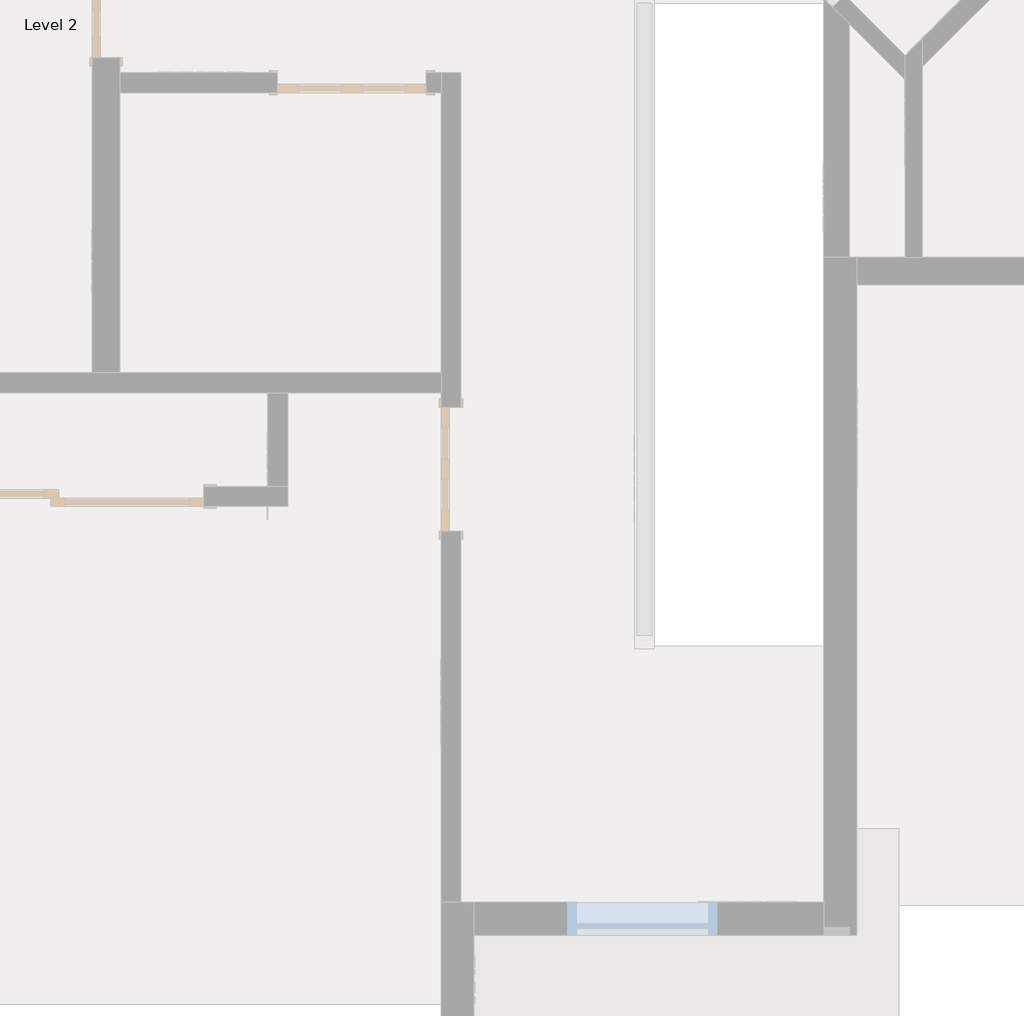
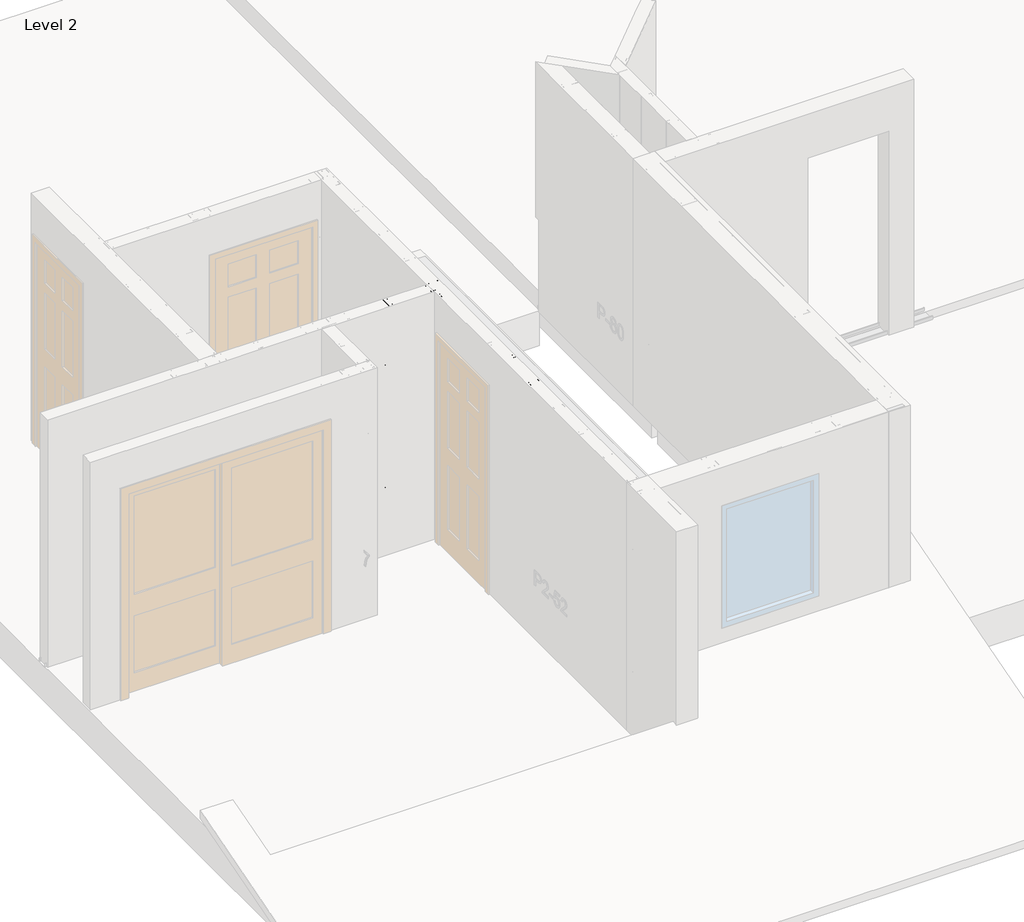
# One storey, part 13 of 46: 8 columns.
"""IFC4 building model written with IfcOpenShell, lengths in millimetres."""

from ifc_helpers import new_model, si_unit, point, frame, origin, place, context, project, spatial, circle_curve, ellipse_curve, trimmed, transform, mapped, element, save
from ifc_brep_helpers import plane_surface, extruded_surface, advanced_brep
from components import column_350nf150_33_a93e9d8a

model = new_model("IFC4")

# Units and contexts
model_context = context("Model", 3, world=origin())
ifc_project = project(units=[si_unit("LENGTHUNIT", "METRE", prefix="MILLI")], contexts=[model_context])

# Site, building, storey
site = spatial("IfcSite", under=ifc_project)
building = spatial("IfcBuilding", under=site)
storey = spatial("IfcBuildingStorey", under=building, Name="Level 2", Elevation=3060.7)

# Columns
placement = place(None, origin())
element("IfcColumn", 1, ObjectType="BIMSF-SSMA-S-Column : 350NF150-33", at=placement, inside=storey, context=model_context, shape_type="AdvancedBrep", body=[
    advanced_brep(
    [(-11365.0413349, 4168.902221, 3061.5929687), (-11453.9413349, 4168.902221, 3061.5929687), (-11453.9413349, 4207.002221, 3061.5929687), (-11448.2838191, 4207.002221, 3061.5929687), (-11448.2838191, 4206.1199052, 3061.5929687), (-11453.0590191, 4206.1199052, 3061.5929687), (-11453.0590191, 4169.7845367, 3061.5929687), (-11365.9236507, 4169.7845367, 3061.5929687), (-11365.9236507, 4206.1199052, 3061.5929687), (-11370.6988507, 4206.1199052, 3061.5929687), (-11370.6988507, 4207.002221, 3061.5929687), (-11365.0413349, 4207.002221, 3061.5929687), (-11365.0413349, 4168.902221, 5523.6070313), (-11453.9413349, 4168.902221, 5523.6070313), (-11422.1913349, 4168.902221, 3671.1929687), (-11396.7913349, 4168.902221, 3671.1929687), (-11422.1913349, 4168.902221, 4890.3929687), (-11396.7913349, 4168.902221, 4890.3929687), (-11453.9413349, 4207.002221, 5523.6070313), (-11448.2838191, 4207.002221, 5523.6070313), (-11448.2838191, 4206.1199052, 5523.6070313), (-11453.0590191, 4206.1199052, 5523.6070313), (-11453.0590191, 4169.7845367, 5523.6070313), (-11365.9236507, 4169.7845367, 5523.6070313), (-11396.7913349, 4169.7845367, 3671.1929688), (-11422.1913349, 4169.7845367, 3671.1929688), (-11396.7913349, 4169.7845367, 4890.3929687), (-11422.1913349, 4169.7845367, 4890.3929687), (-11365.9236507, 4206.1199052, 5523.6070313), (-11370.6988507, 4206.1199052, 5523.6070313), (-11370.6988507, 4207.002221, 5523.6070313), (-11365.0413349, 4207.002221, 5523.6070313)],
    [
        (0, 1),
        (1, 2),
        (2, 3),
        (3, 4),
        (4, 5),
        (5, 6),
        (6, 7),
        (7, 8),
        (8, 9),
        (9, 10),
        (10, 11),
        (11, 0),
        (0, 12),
        (12, 13),
        (13, 1),
        (14, 15, circle_curve(frame((-11409.4913349, 4168.902221, 3671.1929688), z_axis=(0.0, 1.0, 0.0), x_axis=(-1.0, 0.0, 0.0)), 12.7)),
        (15, 14, circle_curve(frame((-11409.4913349, 4168.902221, 3671.1929688), z_axis=(0.0, 1.0, 0.0), x_axis=(-1.0, 0.0, 0.0)), 12.7)),
        (16, 17, circle_curve(frame((-11409.4913349, 4168.902221, 4890.3929687), z_axis=(0.0, 1.0, 0.0), x_axis=(-1.0, 0.0, 0.0)), 12.7)),
        (17, 16, circle_curve(frame((-11409.4913349, 4168.902221, 4890.3929687), z_axis=(0.0, 1.0, 0.0), x_axis=(-1.0, 0.0, 0.0)), 12.7)),
        (13, 18),
        (18, 2),
        (18, 19),
        (19, 3),
        (19, 20),
        (20, 4),
        (20, 21),
        (21, 5),
        (21, 22),
        (22, 6),
        (22, 23),
        (23, 7),
        (24, 25, circle_curve(frame((-11409.4913349, 4169.7845367, 3671.1929687), z_axis=(0.0, -1.0, 0.0), x_axis=(-1.0, 0.0, 0.0)), 12.7)),
        (25, 24, circle_curve(frame((-11409.4913349, 4169.7845367, 3671.1929687), z_axis=(0.0, -1.0, 0.0), x_axis=(-1.0, 0.0, 0.0)), 12.7)),
        (26, 27, circle_curve(frame((-11409.4913349, 4169.7845367, 4890.3929687), z_axis=(0.0, -1.0, 0.0), x_axis=(-1.0, 0.0, 0.0)), 12.7)),
        (27, 26, circle_curve(frame((-11409.4913349, 4169.7845367, 4890.3929687), z_axis=(0.0, -1.0, 0.0), x_axis=(-1.0, 0.0, 0.0)), 12.7)),
        (23, 28),
        (28, 8),
        (28, 29),
        (29, 9),
        (29, 30),
        (30, 10),
        (30, 31),
        (31, 11),
        (31, 12),
        (24, 15),
        (14, 25),
        (26, 17),
        (16, 27),
    ],
    [
        plane_surface(frame((-11365.0413349, 4168.902221, 3061.5929687), z_axis=(0.0, 0.0, -1.0), x_axis=(0.0, -1.0, 0.0))),
        plane_surface(frame((-11453.9413349, 4168.902221, 5523.6070313), z_axis=(0.0, -1.0, 0.0), x_axis=(0.0, 0.0, -1.0))),
        plane_surface(frame((-11453.9413349, 4207.002221, 5523.6070313), z_axis=(-1.0, 0.0, 0.0), x_axis=(0.0, 0.0, -1.0))),
        plane_surface(frame((-11448.2838191, 4207.002221, 5523.6070313), z_axis=(0.0, 1.0, 0.0), x_axis=(0.0, 0.0, -1.0))),
        plane_surface(frame((-11448.2838191, 4206.1199052, 5523.6070313), z_axis=(1.0, 0.0, 0.0), x_axis=(0.0, 0.0, -1.0))),
        plane_surface(frame((-11453.0590191, 4206.1199052, 5523.6070313), z_axis=(0.0, -1.0, 0.0), x_axis=(0.0, 0.0, -1.0))),
        plane_surface(frame((-11453.0590191, 4169.7845367, 5523.6070313), z_axis=(1.0, 0.0, 0.0), x_axis=(0.0, 0.0, -1.0))),
        plane_surface(frame((-11365.9236507, 4169.7845367, 5523.6070313), z_axis=(0.0, 1.0, 0.0), x_axis=(0.0, 0.0, -1.0))),
        plane_surface(frame((-11365.9236507, 4206.1199052, 5523.6070313), z_axis=(-1.0, 0.0, 0.0), x_axis=(0.0, 0.0, -1.0))),
        plane_surface(frame((-11370.6988507, 4206.1199052, 5523.6070313), z_axis=(0.0, -1.0, 0.0), x_axis=(0.0, 0.0, -1.0))),
        plane_surface(frame((-11370.6988507, 4207.002221, 5523.6070313), z_axis=(-1.0, 0.0, 0.0), x_axis=(0.0, 0.0, -1.0))),
        plane_surface(frame((-11365.0413349, 4207.002221, 5523.6070313), z_axis=(0.0, 1.0, 0.0), x_axis=(0.0, 0.0, -1.0))),
        plane_surface(frame((-11365.0413349, 4168.902221, 5523.6070313), z_axis=(1.0, 0.0, 0.0), x_axis=(0.0, 0.0, -1.0))),
        plane_surface(frame((-11365.0413349, 4168.902221, 5523.6070313), z_axis=(0.0, 0.0, 1.0), x_axis=(0.0, 1.0, 0.0))),
        extruded_surface(trimmed(ellipse_curve(frame((-11409.4913349, 6649.9662835, 3671.1929688), z_axis=(0.0, -1.0, 0.0), x_axis=(-1.0, 0.0, 0.0)), 12.7, 12.7), [point((-11396.7913349, 6649.9662835, 3671.1929688))], [point((-11422.1913349, 6649.9662835, 3671.1929688))], True, "CARTESIAN"), (0.0, 4924.028125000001, 0.0), 4924.028125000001),
        extruded_surface(trimmed(ellipse_curve(frame((-11409.4913349, 6649.9662835, 3671.1929688), z_axis=(0.0, -1.0, 0.0), x_axis=(-1.0, 0.0, 0.0)), 12.7, 12.7), [point((-11422.1913349, 6649.9662835, 3671.1929688))], [point((-11396.7913349, 6649.9662835, 3671.1929688))], True, "CARTESIAN"), (0.0, 4924.028125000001, 0.0), 4924.028125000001),
        extruded_surface(trimmed(ellipse_curve(frame((-11409.4913349, 6649.9662835, 4890.3929687), z_axis=(0.0, -1.0, 0.0), x_axis=(-1.0, 0.0, 0.0)), 12.7, 12.7), [point((-11396.7913349, 6649.9662835, 4890.3929687))], [point((-11422.1913349, 6649.9662835, 4890.3929687))], True, "CARTESIAN"), (0.0, 4924.028125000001, 0.0), 4924.028125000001),
        extruded_surface(trimmed(ellipse_curve(frame((-11409.4913349, 6649.9662835, 4890.3929687), z_axis=(0.0, -1.0, 0.0), x_axis=(-1.0, 0.0, 0.0)), 12.7, 12.7), [point((-11422.1913349, 6649.9662835, 4890.3929687))], [point((-11396.7913349, 6649.9662835, 4890.3929687))], True, "CARTESIAN"), (0.0, 4924.028125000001, 0.0), 4924.028125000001),
    ],
    [
        (0, [[1, 2, 3, 4, 5, 6, 7, 8, 9, 10, 11, 12]]),
        (1, [[-1, 13, 14, 15], [16, 17], [18, 19]]),
        (2, [[-2, -15, 20, 21]]),
        (3, [[-3, -21, 22, 23]]),
        (4, [[-4, -23, 24, 25]]),
        (5, [[-5, -25, 26, 27]]),
        (6, [[-6, -27, 28, 29]]),
        (7, [[-7, -29, 30, 31], [32, 33], [34, 35]]),
        (8, [[-8, -31, 36, 37]]),
        (9, [[-9, -37, 38, 39]]),
        (10, [[-10, -39, 40, 41]]),
        (11, [[-11, -41, 42, 43]]),
        (12, [[-12, -43, 44, -13]]),
        (13, [[-14, -44, -42, -40, -38, -36, -30, -28, -26, -24, -22, -20]]),
        (14, [[45, -16, 46, -32]]),
        (15, [[-45, -33, -46, -17]]),
        (16, [[47, -18, 48, -34]]),
        (17, [[-47, -35, -48, -19]]),
    ],
),
])
element("IfcColumn", 2, ObjectType="BIMSF-SSMA-S-Column : 350NF150-33", at=placement, inside=storey, context=model_context, shape_type="AdvancedBrep", body=[
    advanced_brep(
    [(-11365.0413349, 4575.302221, 3061.5929687), (-11453.9413349, 4575.302221, 3061.5929687), (-11453.9413349, 4613.402221, 3061.5929687), (-11448.2838191, 4613.402221, 3061.5929687), (-11448.2838191, 4612.5199052, 3061.5929687), (-11453.0590191, 4612.5199052, 3061.5929687), (-11453.0590191, 4576.1845367, 3061.5929687), (-11365.9236507, 4576.1845367, 3061.5929687), (-11365.9236507, 4612.5199052, 3061.5929687), (-11370.6988507, 4612.5199052, 3061.5929687), (-11370.6988507, 4613.402221, 3061.5929687), (-11365.0413349, 4613.402221, 3061.5929687), (-11365.0413349, 4575.302221, 5523.6070313), (-11453.9413349, 4575.302221, 5523.6070313), (-11422.1913349, 4575.302221, 3671.1929687), (-11396.7913349, 4575.302221, 3671.1929687), (-11422.1913349, 4575.302221, 4890.3929687), (-11396.7913349, 4575.302221, 4890.3929687), (-11453.9413349, 4613.402221, 5523.6070313), (-11448.2838191, 4613.402221, 5523.6070313), (-11448.2838191, 4612.5199052, 5523.6070313), (-11453.0590191, 4612.5199052, 5523.6070313), (-11453.0590191, 4576.1845367, 5523.6070313), (-11365.9236507, 4576.1845367, 5523.6070313), (-11396.7913349, 4576.1845367, 3671.1929688), (-11422.1913349, 4576.1845367, 3671.1929688), (-11396.7913349, 4576.1845367, 4890.3929687), (-11422.1913349, 4576.1845367, 4890.3929687), (-11365.9236507, 4612.5199052, 5523.6070313), (-11370.6988507, 4612.5199052, 5523.6070313), (-11370.6988507, 4613.402221, 5523.6070313), (-11365.0413349, 4613.402221, 5523.6070313)],
    [
        (0, 1),
        (1, 2),
        (2, 3),
        (3, 4),
        (4, 5),
        (5, 6),
        (6, 7),
        (7, 8),
        (8, 9),
        (9, 10),
        (10, 11),
        (11, 0),
        (0, 12),
        (12, 13),
        (13, 1),
        (14, 15, circle_curve(frame((-11409.4913349, 4575.302221, 3671.1929688), z_axis=(0.0, 1.0, 0.0), x_axis=(-1.0, 0.0, 0.0)), 12.7)),
        (15, 14, circle_curve(frame((-11409.4913349, 4575.302221, 3671.1929688), z_axis=(0.0, 1.0, 0.0), x_axis=(-1.0, 0.0, 0.0)), 12.7)),
        (16, 17, circle_curve(frame((-11409.4913349, 4575.302221, 4890.3929687), z_axis=(0.0, 1.0, 0.0), x_axis=(-1.0, 0.0, 0.0)), 12.7)),
        (17, 16, circle_curve(frame((-11409.4913349, 4575.302221, 4890.3929687), z_axis=(0.0, 1.0, 0.0), x_axis=(-1.0, 0.0, 0.0)), 12.7)),
        (13, 18),
        (18, 2),
        (18, 19),
        (19, 3),
        (19, 20),
        (20, 4),
        (20, 21),
        (21, 5),
        (21, 22),
        (22, 6),
        (22, 23),
        (23, 7),
        (24, 25, circle_curve(frame((-11409.4913349, 4576.1845367, 3671.1929687), z_axis=(0.0, -1.0, 0.0), x_axis=(-1.0, 0.0, 0.0)), 12.7)),
        (25, 24, circle_curve(frame((-11409.4913349, 4576.1845367, 3671.1929687), z_axis=(0.0, -1.0, 0.0), x_axis=(-1.0, 0.0, 0.0)), 12.7)),
        (26, 27, circle_curve(frame((-11409.4913349, 4576.1845367, 4890.3929687), z_axis=(0.0, -1.0, 0.0), x_axis=(-1.0, 0.0, 0.0)), 12.7)),
        (27, 26, circle_curve(frame((-11409.4913349, 4576.1845367, 4890.3929687), z_axis=(0.0, -1.0, 0.0), x_axis=(-1.0, 0.0, 0.0)), 12.7)),
        (23, 28),
        (28, 8),
        (28, 29),
        (29, 9),
        (29, 30),
        (30, 10),
        (30, 31),
        (31, 11),
        (31, 12),
        (24, 15),
        (14, 25),
        (26, 17),
        (16, 27),
    ],
    [
        plane_surface(frame((-11365.0413349, 4575.302221, 3061.5929687), z_axis=(0.0, 0.0, -1.0), x_axis=(0.0, -1.0, 0.0))),
        plane_surface(frame((-11453.9413349, 4575.302221, 5523.6070313), z_axis=(0.0, -1.0, 0.0), x_axis=(0.0, 0.0, -1.0))),
        plane_surface(frame((-11453.9413349, 4613.402221, 5523.6070313), z_axis=(-1.0, 0.0, 0.0), x_axis=(0.0, 0.0, -1.0))),
        plane_surface(frame((-11448.2838191, 4613.402221, 5523.6070313), z_axis=(0.0, 1.0, 0.0), x_axis=(0.0, 0.0, -1.0))),
        plane_surface(frame((-11448.2838191, 4612.5199052, 5523.6070313), z_axis=(1.0, 0.0, 0.0), x_axis=(0.0, 0.0, -1.0))),
        plane_surface(frame((-11453.0590191, 4612.5199052, 5523.6070313), z_axis=(0.0, -1.0, 0.0), x_axis=(0.0, 0.0, -1.0))),
        plane_surface(frame((-11453.0590191, 4576.1845367, 5523.6070313), z_axis=(1.0, 0.0, 0.0), x_axis=(0.0, 0.0, -1.0))),
        plane_surface(frame((-11365.9236507, 4576.1845367, 5523.6070313), z_axis=(0.0, 1.0, 0.0), x_axis=(0.0, 0.0, -1.0))),
        plane_surface(frame((-11365.9236507, 4612.5199052, 5523.6070313), z_axis=(-1.0, 0.0, 0.0), x_axis=(0.0, 0.0, -1.0))),
        plane_surface(frame((-11370.6988507, 4612.5199052, 5523.6070313), z_axis=(0.0, -1.0, 0.0), x_axis=(0.0, 0.0, -1.0))),
        plane_surface(frame((-11370.6988507, 4613.402221, 5523.6070313), z_axis=(-1.0, 0.0, 0.0), x_axis=(0.0, 0.0, -1.0))),
        plane_surface(frame((-11365.0413349, 4613.402221, 5523.6070313), z_axis=(0.0, 1.0, 0.0), x_axis=(0.0, 0.0, -1.0))),
        plane_surface(frame((-11365.0413349, 4575.302221, 5523.6070313), z_axis=(1.0, 0.0, 0.0), x_axis=(0.0, 0.0, -1.0))),
        plane_surface(frame((-11365.0413349, 4575.302221, 5523.6070313), z_axis=(0.0, 0.0, 1.0), x_axis=(0.0, 1.0, 0.0))),
        extruded_surface(trimmed(ellipse_curve(frame((-11409.4913349, 7056.3662835, 3671.1929688), z_axis=(0.0, -1.0, 0.0), x_axis=(-1.0, 0.0, 0.0)), 12.7, 12.7), [point((-11396.7913349, 7056.3662835, 3671.1929688))], [point((-11422.1913349, 7056.3662835, 3671.1929688))], True, "CARTESIAN"), (0.0, 4924.028125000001, 0.0), 4924.028125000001),
        extruded_surface(trimmed(ellipse_curve(frame((-11409.4913349, 7056.3662835, 3671.1929688), z_axis=(0.0, -1.0, 0.0), x_axis=(-1.0, 0.0, 0.0)), 12.7, 12.7), [point((-11422.1913349, 7056.3662835, 3671.1929688))], [point((-11396.7913349, 7056.3662835, 3671.1929688))], True, "CARTESIAN"), (0.0, 4924.028125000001, 0.0), 4924.028125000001),
        extruded_surface(trimmed(ellipse_curve(frame((-11409.4913349, 7056.3662835, 4890.3929687), z_axis=(0.0, -1.0, 0.0), x_axis=(-1.0, 0.0, 0.0)), 12.7, 12.7), [point((-11396.7913349, 7056.3662835, 4890.3929687))], [point((-11422.1913349, 7056.3662835, 4890.3929687))], True, "CARTESIAN"), (0.0, 4924.028125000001, 0.0), 4924.028125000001),
        extruded_surface(trimmed(ellipse_curve(frame((-11409.4913349, 7056.3662835, 4890.3929687), z_axis=(0.0, -1.0, 0.0), x_axis=(-1.0, 0.0, 0.0)), 12.7, 12.7), [point((-11422.1913349, 7056.3662835, 4890.3929687))], [point((-11396.7913349, 7056.3662835, 4890.3929687))], True, "CARTESIAN"), (0.0, 4924.028125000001, 0.0), 4924.028125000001),
    ],
    [
        (0, [[1, 2, 3, 4, 5, 6, 7, 8, 9, 10, 11, 12]]),
        (1, [[-1, 13, 14, 15], [16, 17], [18, 19]]),
        (2, [[-2, -15, 20, 21]]),
        (3, [[-3, -21, 22, 23]]),
        (4, [[-4, -23, 24, 25]]),
        (5, [[-5, -25, 26, 27]]),
        (6, [[-6, -27, 28, 29]]),
        (7, [[-7, -29, 30, 31], [32, 33], [34, 35]]),
        (8, [[-8, -31, 36, 37]]),
        (9, [[-9, -37, 38, 39]]),
        (10, [[-10, -39, 40, 41]]),
        (11, [[-11, -41, 42, 43]]),
        (12, [[-12, -43, 44, -13]]),
        (13, [[-14, -44, -42, -40, -38, -36, -30, -28, -26, -24, -22, -20]]),
        (14, [[45, -16, 46, -32]]),
        (15, [[-45, -33, -46, -17]]),
        (16, [[47, -18, 48, -34]]),
        (17, [[-47, -35, -48, -19]]),
    ],
),
])
element("IfcColumn", 3, ObjectType="BIMSF-SSMA-S-Column : 350NF150-33", at=placement, inside=storey, context=model_context, shape_type="AdvancedBrep", body=[
    advanced_brep(
    [(-11365.0413349, 5794.502221, 3061.5929687), (-11453.9413349, 5794.502221, 3061.5929687), (-11453.9413349, 5832.602221, 3061.5929687), (-11448.2838191, 5832.602221, 3061.5929687), (-11448.2838191, 5831.7199052, 3061.5929687), (-11453.0590191, 5831.7199052, 3061.5929687), (-11453.0590191, 5795.3845367, 3061.5929687), (-11365.9236507, 5795.3845367, 3061.5929687), (-11365.9236507, 5831.7199052, 3061.5929687), (-11370.6988507, 5831.7199052, 3061.5929687), (-11370.6988507, 5832.602221, 3061.5929687), (-11365.0413349, 5832.602221, 3061.5929687), (-11365.0413349, 5794.502221, 5523.6070313), (-11453.9413349, 5794.502221, 5523.6070313), (-11422.1913349, 5794.502221, 3671.1929687), (-11396.7913349, 5794.502221, 3671.1929687), (-11422.1913349, 5794.502221, 4890.3929687), (-11396.7913349, 5794.502221, 4890.3929687), (-11453.9413349, 5832.602221, 5523.6070313), (-11448.2838191, 5832.602221, 5523.6070313), (-11448.2838191, 5831.7199052, 5523.6070313), (-11453.0590191, 5831.7199052, 5523.6070313), (-11453.0590191, 5795.3845367, 5523.6070313), (-11365.9236507, 5795.3845367, 5523.6070313), (-11396.7913349, 5795.3845367, 3671.1929688), (-11422.1913349, 5795.3845367, 3671.1929688), (-11396.7913349, 5795.3845367, 4890.3929687), (-11422.1913349, 5795.3845367, 4890.3929687), (-11365.9236507, 5831.7199052, 5523.6070313), (-11370.6988507, 5831.7199052, 5523.6070313), (-11370.6988507, 5832.602221, 5523.6070313), (-11365.0413349, 5832.602221, 5523.6070313)],
    [
        (0, 1),
        (1, 2),
        (2, 3),
        (3, 4),
        (4, 5),
        (5, 6),
        (6, 7),
        (7, 8),
        (8, 9),
        (9, 10),
        (10, 11),
        (11, 0),
        (0, 12),
        (12, 13),
        (13, 1),
        (14, 15, circle_curve(frame((-11409.4913349, 5794.502221, 3671.1929688), z_axis=(0.0, 1.0, 0.0), x_axis=(-1.0, 0.0, 0.0)), 12.7)),
        (15, 14, circle_curve(frame((-11409.4913349, 5794.502221, 3671.1929688), z_axis=(0.0, 1.0, 0.0), x_axis=(-1.0, 0.0, 0.0)), 12.7)),
        (16, 17, circle_curve(frame((-11409.4913349, 5794.502221, 4890.3929687), z_axis=(0.0, 1.0, 0.0), x_axis=(-1.0, 0.0, 0.0)), 12.7)),
        (17, 16, circle_curve(frame((-11409.4913349, 5794.502221, 4890.3929687), z_axis=(0.0, 1.0, 0.0), x_axis=(-1.0, 0.0, 0.0)), 12.7)),
        (13, 18),
        (18, 2),
        (18, 19),
        (19, 3),
        (19, 20),
        (20, 4),
        (20, 21),
        (21, 5),
        (21, 22),
        (22, 6),
        (22, 23),
        (23, 7),
        (24, 25, circle_curve(frame((-11409.4913349, 5795.3845367, 3671.1929687), z_axis=(0.0, -1.0, 0.0), x_axis=(-1.0, 0.0, 0.0)), 12.7)),
        (25, 24, circle_curve(frame((-11409.4913349, 5795.3845367, 3671.1929687), z_axis=(0.0, -1.0, 0.0), x_axis=(-1.0, 0.0, 0.0)), 12.7)),
        (26, 27, circle_curve(frame((-11409.4913349, 5795.3845367, 4890.3929687), z_axis=(0.0, -1.0, 0.0), x_axis=(-1.0, 0.0, 0.0)), 12.7)),
        (27, 26, circle_curve(frame((-11409.4913349, 5795.3845367, 4890.3929687), z_axis=(0.0, -1.0, 0.0), x_axis=(-1.0, 0.0, 0.0)), 12.7)),
        (23, 28),
        (28, 8),
        (28, 29),
        (29, 9),
        (29, 30),
        (30, 10),
        (30, 31),
        (31, 11),
        (31, 12),
        (24, 15),
        (14, 25),
        (26, 17),
        (16, 27),
    ],
    [
        plane_surface(frame((-11365.0413349, 5794.502221, 3061.5929687), z_axis=(0.0, 0.0, -1.0), x_axis=(0.0, -1.0, 0.0))),
        plane_surface(frame((-11453.9413349, 5794.502221, 5523.6070313), z_axis=(0.0, -1.0, 0.0), x_axis=(0.0, 0.0, -1.0))),
        plane_surface(frame((-11453.9413349, 5832.602221, 5523.6070313), z_axis=(-1.0, 0.0, 0.0), x_axis=(0.0, 0.0, -1.0))),
        plane_surface(frame((-11448.2838191, 5832.602221, 5523.6070313), z_axis=(0.0, 1.0, 0.0), x_axis=(0.0, 0.0, -1.0))),
        plane_surface(frame((-11448.2838191, 5831.7199052, 5523.6070313), z_axis=(1.0, 0.0, 0.0), x_axis=(0.0, 0.0, -1.0))),
        plane_surface(frame((-11453.0590191, 5831.7199052, 5523.6070313), z_axis=(0.0, -1.0, 0.0), x_axis=(0.0, 0.0, -1.0))),
        plane_surface(frame((-11453.0590191, 5795.3845367, 5523.6070313), z_axis=(1.0, 0.0, 0.0), x_axis=(0.0, 0.0, -1.0))),
        plane_surface(frame((-11365.9236507, 5795.3845367, 5523.6070313), z_axis=(0.0, 1.0, 0.0), x_axis=(0.0, 0.0, -1.0))),
        plane_surface(frame((-11365.9236507, 5831.7199052, 5523.6070313), z_axis=(-1.0, 0.0, 0.0), x_axis=(0.0, 0.0, -1.0))),
        plane_surface(frame((-11370.6988507, 5831.7199052, 5523.6070313), z_axis=(0.0, -1.0, 0.0), x_axis=(0.0, 0.0, -1.0))),
        plane_surface(frame((-11370.6988507, 5832.602221, 5523.6070313), z_axis=(-1.0, 0.0, 0.0), x_axis=(0.0, 0.0, -1.0))),
        plane_surface(frame((-11365.0413349, 5832.602221, 5523.6070313), z_axis=(0.0, 1.0, 0.0), x_axis=(0.0, 0.0, -1.0))),
        plane_surface(frame((-11365.0413349, 5794.502221, 5523.6070313), z_axis=(1.0, 0.0, 0.0), x_axis=(0.0, 0.0, -1.0))),
        plane_surface(frame((-11365.0413349, 5794.502221, 5523.6070313), z_axis=(0.0, 0.0, 1.0), x_axis=(0.0, 1.0, 0.0))),
        extruded_surface(trimmed(ellipse_curve(frame((-11409.4913349, 8275.5662835, 3671.1929688), z_axis=(0.0, -1.0, 0.0), x_axis=(-1.0, 0.0, 0.0)), 12.7, 12.7), [point((-11396.7913349, 8275.5662835, 3671.1929688))], [point((-11422.1913349, 8275.5662835, 3671.1929688))], True, "CARTESIAN"), (0.0, 4924.028124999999, 0.0), 4924.028124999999),
        extruded_surface(trimmed(ellipse_curve(frame((-11409.4913349, 8275.5662835, 3671.1929688), z_axis=(0.0, -1.0, 0.0), x_axis=(-1.0, 0.0, 0.0)), 12.7, 12.7), [point((-11422.1913349, 8275.5662835, 3671.1929688))], [point((-11396.7913349, 8275.5662835, 3671.1929688))], True, "CARTESIAN"), (0.0, 4924.028124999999, 0.0), 4924.028124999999),
        extruded_surface(trimmed(ellipse_curve(frame((-11409.4913349, 8275.5662835, 4890.3929687), z_axis=(0.0, -1.0, 0.0), x_axis=(-1.0, 0.0, 0.0)), 12.7, 12.7), [point((-11396.7913349, 8275.5662835, 4890.3929687))], [point((-11422.1913349, 8275.5662835, 4890.3929687))], True, "CARTESIAN"), (0.0, 4924.028124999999, 0.0), 4924.028124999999),
        extruded_surface(trimmed(ellipse_curve(frame((-11409.4913349, 8275.5662835, 4890.3929687), z_axis=(0.0, -1.0, 0.0), x_axis=(-1.0, 0.0, 0.0)), 12.7, 12.7), [point((-11422.1913349, 8275.5662835, 4890.3929687))], [point((-11396.7913349, 8275.5662835, 4890.3929687))], True, "CARTESIAN"), (0.0, 4924.028124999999, 0.0), 4924.028124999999),
    ],
    [
        (0, [[1, 2, 3, 4, 5, 6, 7, 8, 9, 10, 11, 12]]),
        (1, [[-1, 13, 14, 15], [16, 17], [18, 19]]),
        (2, [[-2, -15, 20, 21]]),
        (3, [[-3, -21, 22, 23]]),
        (4, [[-4, -23, 24, 25]]),
        (5, [[-5, -25, 26, 27]]),
        (6, [[-6, -27, 28, 29]]),
        (7, [[-7, -29, 30, 31], [32, 33], [34, 35]]),
        (8, [[-8, -31, 36, 37]]),
        (9, [[-9, -37, 38, 39]]),
        (10, [[-10, -39, 40, 41]]),
        (11, [[-11, -41, 42, 43]]),
        (12, [[-12, -43, 44, -13]]),
        (13, [[-14, -44, -42, -40, -38, -36, -30, -28, -26, -24, -22, -20]]),
        (14, [[45, -16, 46, -32]]),
        (15, [[-45, -33, -46, -17]]),
        (16, [[47, -18, 48, -34]]),
        (17, [[-47, -35, -48, -19]]),
    ],
),
])
element("IfcColumn", 4, ObjectType="BIMSF-SSMA-S-Column : 350NF150-33", at=placement, inside=storey, context=model_context, shape_type="AdvancedBrep", body=[
    advanced_brep(
    [(-10177.5913349, 4219.4349099, 3061.5929687), (-10266.4913349, 4219.4349099, 3061.5929687), (-10266.4913349, 4257.5349099, 3061.5929687), (-10260.8338191, 4257.5349099, 3061.5929687), (-10260.8338191, 4256.6525941, 3061.5929687), (-10265.6090191, 4256.6525941, 3061.5929687), (-10265.6090191, 4220.3172257, 3061.5929687), (-10178.4736507, 4220.3172257, 3061.5929687), (-10178.4736507, 4256.6525941, 3061.5929687), (-10183.2488507, 4256.6525941, 3061.5929687), (-10183.2488507, 4257.5349099, 3061.5929687), (-10177.5913349, 4257.5349099, 3061.5929687), (-10177.5913349, 4219.4349099, 3974.2070312), (-10266.4913349, 4219.4349099, 3974.2070312), (-10234.7413349, 4219.4349099, 3671.1929687), (-10209.3413349, 4219.4349099, 3671.1929687), (-10266.4913349, 4257.5349099, 3974.2070312), (-10260.8338191, 4257.5349099, 3974.2070312), (-10260.8338191, 4256.6525941, 3974.2070312), (-10265.6090191, 4256.6525941, 3974.2070312), (-10265.6090191, 4220.3172257, 3974.2070312), (-10178.4736507, 4220.3172257, 3974.2070312), (-10209.3413349, 4220.3172257, 3671.1929687), (-10234.7413349, 4220.3172257, 3671.1929687), (-10178.4736507, 4256.6525941, 3974.2070312), (-10183.2488507, 4256.6525941, 3974.2070312), (-10183.2488507, 4257.5349099, 3974.2070312), (-10177.5913349, 4257.5349099, 3974.2070312)],
    [
        (0, 1),
        (1, 2),
        (2, 3),
        (3, 4),
        (4, 5),
        (5, 6),
        (6, 7),
        (7, 8),
        (8, 9),
        (9, 10),
        (10, 11),
        (11, 0),
        (0, 12),
        (12, 13),
        (13, 1),
        (14, 15, circle_curve(frame((-10222.0413349, 4219.4349099, 3671.1929687), z_axis=(0.0, 1.0, 0.0), x_axis=(-1.0, 0.0, 0.0)), 12.7)),
        (15, 14, circle_curve(frame((-10222.0413349, 4219.4349099, 3671.1929687), z_axis=(0.0, 1.0, 0.0), x_axis=(-1.0, 0.0, 0.0)), 12.7)),
        (13, 16),
        (16, 2),
        (16, 17),
        (17, 3),
        (17, 18),
        (18, 4),
        (18, 19),
        (19, 5),
        (19, 20),
        (20, 6),
        (20, 21),
        (21, 7),
        (22, 23, circle_curve(frame((-10222.0413349, 4220.3172257, 3671.1929688), z_axis=(0.0, -1.0, 0.0), x_axis=(-1.0, 0.0, 0.0)), 12.7)),
        (23, 22, circle_curve(frame((-10222.0413349, 4220.3172257, 3671.1929688), z_axis=(0.0, -1.0, 0.0), x_axis=(-1.0, 0.0, 0.0)), 12.7)),
        (21, 24),
        (24, 8),
        (24, 25),
        (25, 9),
        (25, 26),
        (26, 10),
        (26, 27),
        (27, 11),
        (27, 12),
        (22, 15),
        (14, 23),
    ],
    [
        plane_surface(frame((-10177.5913349, 4219.4349099, 3061.5929687), z_axis=(0.0, 0.0, -1.0), x_axis=(0.0, -1.0, 0.0))),
        plane_surface(frame((-10266.4913349, 4219.4349099, 3974.2070312), z_axis=(0.0, -1.0, 0.0), x_axis=(0.0, 0.0, -1.0))),
        plane_surface(frame((-10266.4913349, 4257.5349099, 3974.2070312), z_axis=(-1.0, 0.0, 0.0), x_axis=(0.0, 0.0, -1.0))),
        plane_surface(frame((-10260.8338191, 4257.5349099, 3974.2070312), z_axis=(0.0, 1.0, 0.0), x_axis=(0.0, 0.0, -1.0))),
        plane_surface(frame((-10260.8338191, 4256.6525941, 3974.2070312), z_axis=(1.0, 0.0, 0.0), x_axis=(0.0, 0.0, -1.0))),
        plane_surface(frame((-10265.6090191, 4256.6525941, 3974.2070312), z_axis=(0.0, -1.0, 0.0), x_axis=(0.0, 0.0, -1.0))),
        plane_surface(frame((-10265.6090191, 4220.3172257, 3974.2070312), z_axis=(1.0, 0.0, 0.0), x_axis=(0.0, 0.0, -1.0))),
        plane_surface(frame((-10178.4736507, 4220.3172257, 3974.2070312), z_axis=(0.0, 1.0, 0.0), x_axis=(0.0, 0.0, -1.0))),
        plane_surface(frame((-10178.4736507, 4256.6525941, 3974.2070312), z_axis=(-1.0, 0.0, 0.0), x_axis=(0.0, 0.0, -1.0))),
        plane_surface(frame((-10183.2488507, 4256.6525941, 3974.2070312), z_axis=(0.0, -1.0, 0.0), x_axis=(0.0, 0.0, -1.0))),
        plane_surface(frame((-10183.2488507, 4257.5349099, 3974.2070312), z_axis=(-1.0, 0.0, 0.0), x_axis=(0.0, 0.0, -1.0))),
        plane_surface(frame((-10177.5913349, 4257.5349099, 3974.2070312), z_axis=(0.0, 1.0, 0.0), x_axis=(0.0, 0.0, -1.0))),
        plane_surface(frame((-10177.5913349, 4219.4349099, 3974.2070312), z_axis=(1.0, 0.0, 0.0), x_axis=(0.0, 0.0, -1.0))),
        plane_surface(frame((-10177.5913349, 4219.4349099, 3974.2070312), z_axis=(0.0, 0.0, 1.0), x_axis=(0.0, 1.0, 0.0))),
        extruded_surface(trimmed(ellipse_curve(frame((-10222.0413349, 5151.0989724, 3671.1929688), z_axis=(0.0, -1.0, 0.0), x_axis=(-1.0, 0.0, 0.0)), 12.7, 12.7), [point((-10209.3413349, 5151.0989724, 3671.1929688))], [point((-10234.7413349, 5151.0989724, 3671.1929688))], True, "CARTESIAN"), (0.0, 1825.2281249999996, 0.0), 1825.2281249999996),
        extruded_surface(trimmed(ellipse_curve(frame((-10222.0413349, 5151.0989724, 3671.1929688), z_axis=(0.0, -1.0, 0.0), x_axis=(-1.0, 0.0, 0.0)), 12.7, 12.7), [point((-10234.7413349, 5151.0989724, 3671.1929688))], [point((-10209.3413349, 5151.0989724, 3671.1929688))], True, "CARTESIAN"), (0.0, 1825.2281249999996, 0.0), 1825.2281249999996),
    ],
    [
        (0, [[1, 2, 3, 4, 5, 6, 7, 8, 9, 10, 11, 12]]),
        (1, [[-1, 13, 14, 15], [16, 17]]),
        (2, [[-2, -15, 18, 19]]),
        (3, [[-3, -19, 20, 21]]),
        (4, [[-4, -21, 22, 23]]),
        (5, [[-5, -23, 24, 25]]),
        (6, [[-6, -25, 26, 27]]),
        (7, [[-7, -27, 28, 29], [30, 31]]),
        (8, [[-8, -29, 32, 33]]),
        (9, [[-9, -33, 34, 35]]),
        (10, [[-10, -35, 36, 37]]),
        (11, [[-11, -37, 38, 39]]),
        (12, [[-12, -39, 40, -13]]),
        (13, [[-14, -40, -38, -36, -34, -32, -28, -26, -24, -22, -20, -18]]),
        (14, [[41, -16, 42, -30]]),
        (15, [[-41, -31, -42, -17]]),
    ],
),
])
element("IfcColumn", 5, ObjectType="BIMSF-SSMA-S-Column : 350NF150-33", at=placement, inside=storey, context=model_context, shape_type="AdvancedBrep", body=[
    advanced_brep(
    [(-10177.5913349, 4606.7849099, 3061.5929687), (-10266.4913349, 4606.7849099, 3061.5929687), (-10266.4913349, 4644.8849099, 3061.5929687), (-10260.8338191, 4644.8849099, 3061.5929687), (-10260.8338191, 4644.0025941, 3061.5929687), (-10265.6090191, 4644.0025941, 3061.5929687), (-10265.6090191, 4607.6672257, 3061.5929687), (-10178.4736507, 4607.6672257, 3061.5929687), (-10178.4736507, 4644.0025941, 3061.5929687), (-10183.2488507, 4644.0025941, 3061.5929687), (-10183.2488507, 4644.8849099, 3061.5929687), (-10177.5913349, 4644.8849099, 3061.5929687), (-10177.5913349, 4606.7849099, 3974.2070312), (-10266.4913349, 4606.7849099, 3974.2070312), (-10234.7413349, 4606.7849099, 3671.1929687), (-10209.3413349, 4606.7849099, 3671.1929688), (-10266.4913349, 4644.8849099, 3974.2070312), (-10260.8338191, 4644.8849099, 3974.2070312), (-10260.8338191, 4644.0025941, 3974.2070312), (-10265.6090191, 4644.0025941, 3974.2070312), (-10265.6090191, 4607.6672257, 3974.2070312), (-10178.4736507, 4607.6672257, 3974.2070312), (-10209.3413349, 4607.6672257, 3671.1929687), (-10234.7413349, 4607.6672257, 3671.1929687), (-10178.4736507, 4644.0025941, 3974.2070312), (-10183.2488507, 4644.0025941, 3974.2070312), (-10183.2488507, 4644.8849099, 3974.2070312), (-10177.5913349, 4644.8849099, 3974.2070312)],
    [
        (0, 1),
        (1, 2),
        (2, 3),
        (3, 4),
        (4, 5),
        (5, 6),
        (6, 7),
        (7, 8),
        (8, 9),
        (9, 10),
        (10, 11),
        (11, 0),
        (0, 12),
        (12, 13),
        (13, 1),
        (14, 15, circle_curve(frame((-10222.0413349, 4606.7849099, 3671.1929687), z_axis=(0.0, 1.0, 0.0), x_axis=(-1.0, 0.0, 0.0)), 12.7)),
        (15, 14, circle_curve(frame((-10222.0413349, 4606.7849099, 3671.1929687), z_axis=(0.0, 1.0, 0.0), x_axis=(-1.0, 0.0, 0.0)), 12.7)),
        (13, 16),
        (16, 2),
        (16, 17),
        (17, 3),
        (17, 18),
        (18, 4),
        (18, 19),
        (19, 5),
        (19, 20),
        (20, 6),
        (20, 21),
        (21, 7),
        (22, 23, circle_curve(frame((-10222.0413349, 4607.6672257, 3671.1929688), z_axis=(0.0, -1.0, 0.0), x_axis=(-1.0, 0.0, 0.0)), 12.7)),
        (23, 22, circle_curve(frame((-10222.0413349, 4607.6672257, 3671.1929688), z_axis=(0.0, -1.0, 0.0), x_axis=(-1.0, 0.0, 0.0)), 12.7)),
        (21, 24),
        (24, 8),
        (24, 25),
        (25, 9),
        (25, 26),
        (26, 10),
        (26, 27),
        (27, 11),
        (27, 12),
        (22, 15),
        (14, 23),
    ],
    [
        plane_surface(frame((-10177.5913349, 4606.7849099, 3061.5929687), z_axis=(0.0, 0.0, -1.0), x_axis=(0.0, -1.0, 0.0))),
        plane_surface(frame((-10266.4913349, 4606.7849099, 3974.2070312), z_axis=(0.0, -1.0, 0.0), x_axis=(0.0, 0.0, -1.0))),
        plane_surface(frame((-10266.4913349, 4644.8849099, 3974.2070312), z_axis=(-1.0, 0.0, 0.0), x_axis=(0.0, 0.0, -1.0))),
        plane_surface(frame((-10260.8338191, 4644.8849099, 3974.2070312), z_axis=(0.0, 1.0, 0.0), x_axis=(0.0, 0.0, -1.0))),
        plane_surface(frame((-10260.8338191, 4644.0025941, 3974.2070312), z_axis=(1.0, 0.0, 0.0), x_axis=(0.0, 0.0, -1.0))),
        plane_surface(frame((-10265.6090191, 4644.0025941, 3974.2070312), z_axis=(0.0, -1.0, 0.0), x_axis=(0.0, 0.0, -1.0))),
        plane_surface(frame((-10265.6090191, 4607.6672257, 3974.2070312), z_axis=(1.0, 0.0, 0.0), x_axis=(0.0, 0.0, -1.0))),
        plane_surface(frame((-10178.4736507, 4607.6672257, 3974.2070312), z_axis=(0.0, 1.0, 0.0), x_axis=(0.0, 0.0, -1.0))),
        plane_surface(frame((-10178.4736507, 4644.0025941, 3974.2070312), z_axis=(-1.0, 0.0, 0.0), x_axis=(0.0, 0.0, -1.0))),
        plane_surface(frame((-10183.2488507, 4644.0025941, 3974.2070312), z_axis=(0.0, -1.0, 0.0), x_axis=(0.0, 0.0, -1.0))),
        plane_surface(frame((-10183.2488507, 4644.8849099, 3974.2070312), z_axis=(-1.0, 0.0, 0.0), x_axis=(0.0, 0.0, -1.0))),
        plane_surface(frame((-10177.5913349, 4644.8849099, 3974.2070312), z_axis=(0.0, 1.0, 0.0), x_axis=(0.0, 0.0, -1.0))),
        plane_surface(frame((-10177.5913349, 4606.7849099, 3974.2070312), z_axis=(1.0, 0.0, 0.0), x_axis=(0.0, 0.0, -1.0))),
        plane_surface(frame((-10177.5913349, 4606.7849099, 3974.2070312), z_axis=(0.0, 0.0, 1.0), x_axis=(0.0, 1.0, 0.0))),
        extruded_surface(trimmed(ellipse_curve(frame((-10222.0413349, 5538.4489724, 3671.1929688), z_axis=(0.0, -1.0, 0.0), x_axis=(-1.0, 0.0, 0.0)), 12.7, 12.7), [point((-10209.3413349, 5538.4489724, 3671.1929688))], [point((-10234.7413349, 5538.4489724, 3671.1929688))], True, "CARTESIAN"), (0.0, 1825.2281250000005, 0.0), 1825.2281250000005),
        extruded_surface(trimmed(ellipse_curve(frame((-10222.0413349, 5538.4489724, 3671.1929688), z_axis=(0.0, -1.0, 0.0), x_axis=(-1.0, 0.0, 0.0)), 12.7, 12.7), [point((-10234.7413349, 5538.4489724, 3671.1929688))], [point((-10209.3413349, 5538.4489724, 3671.1929688))], True, "CARTESIAN"), (0.0, 1825.2281250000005, 0.0), 1825.2281250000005),
    ],
    [
        (0, [[1, 2, 3, 4, 5, 6, 7, 8, 9, 10, 11, 12]]),
        (1, [[-1, 13, 14, 15], [16, 17]]),
        (2, [[-2, -15, 18, 19]]),
        (3, [[-3, -19, 20, 21]]),
        (4, [[-4, -21, 22, 23]]),
        (5, [[-5, -23, 24, 25]]),
        (6, [[-6, -25, 26, 27]]),
        (7, [[-7, -27, 28, 29], [30, 31]]),
        (8, [[-8, -29, 32, 33]]),
        (9, [[-9, -33, 34, 35]]),
        (10, [[-10, -35, 36, 37]]),
        (11, [[-11, -37, 38, 39]]),
        (12, [[-12, -39, 40, -13]]),
        (13, [[-14, -40, -38, -36, -34, -32, -28, -26, -24, -22, -20, -18]]),
        (14, [[41, -16, 42, -30]]),
        (15, [[-41, -31, -42, -17]]),
    ],
),
])
element("IfcColumn", 6, ObjectType="BIMSF-SSMA-S-Column : 350NF150-33", at=placement, inside=storey, context=model_context, shape_type="AdvancedBrep", body=[
    advanced_brep(
    [(-11453.9413349, 5813.552221, 3061.5929687), (-11453.9413349, 5724.652221, 3061.5929687), (-11492.0413349, 5724.652221, 3061.5929687), (-11492.0413349, 5730.3097367, 3061.5929687), (-11491.1590191, 5730.3097367, 3061.5929687), (-11491.1590191, 5725.5345367, 3061.5929687), (-11454.8236507, 5725.5345367, 3061.5929687), (-11454.8236507, 5812.6699052, 3061.5929687), (-11491.1590191, 5812.6699052, 3061.5929687), (-11491.1590191, 5807.8947052, 3061.5929687), (-11492.0413349, 5807.8947052, 3061.5929687), (-11492.0413349, 5813.552221, 3061.5929687), (-11453.9413349, 5813.552221, 5523.6070313), (-11453.9413349, 5724.652221, 5523.6070313), (-11453.9413349, 5756.402221, 3671.1929687), (-11453.9413349, 5781.802221, 3671.1929687), (-11453.9413349, 5756.402221, 4890.3929688), (-11453.9413349, 5781.802221, 4890.3929687), (-11492.0413349, 5724.652221, 5523.6070313), (-11492.0413349, 5730.3097367, 5523.6070313), (-11491.1590191, 5730.3097367, 5523.6070313), (-11491.1590191, 5725.5345367, 5523.6070313), (-11454.8236507, 5725.5345367, 5523.6070313), (-11454.8236507, 5812.6699052, 5523.6070313), (-11454.8236507, 5781.802221, 3671.1929687), (-11454.8236507, 5756.402221, 3671.1929687), (-11454.8236507, 5781.802221, 4890.3929688), (-11454.8236507, 5756.402221, 4890.3929688), (-11491.1590191, 5812.6699052, 5523.6070313), (-11491.1590191, 5807.8947052, 5523.6070313), (-11492.0413349, 5807.8947052, 5523.6070313), (-11492.0413349, 5813.552221, 5523.6070313)],
    [
        (0, 1),
        (1, 2),
        (2, 3),
        (3, 4),
        (4, 5),
        (5, 6),
        (6, 7),
        (7, 8),
        (8, 9),
        (9, 10),
        (10, 11),
        (11, 0),
        (0, 12),
        (12, 13),
        (13, 1),
        (14, 15, circle_curve(frame((-11453.9413349, 5769.102221, 3671.1929688), z_axis=(-1.0, 0.0, 0.0), x_axis=(0.0, -1.0, 0.0)), 12.7)),
        (15, 14, circle_curve(frame((-11453.9413349, 5769.102221, 3671.1929688), z_axis=(-1.0, 0.0, 0.0), x_axis=(0.0, -1.0, 0.0)), 12.7)),
        (16, 17, circle_curve(frame((-11453.9413349, 5769.102221, 4890.3929687), z_axis=(-1.0, 0.0, 0.0), x_axis=(0.0, -1.0, 0.0)), 12.7)),
        (17, 16, circle_curve(frame((-11453.9413349, 5769.102221, 4890.3929687), z_axis=(-1.0, 0.0, 0.0), x_axis=(0.0, -1.0, 0.0)), 12.7)),
        (13, 18),
        (18, 2),
        (18, 19),
        (19, 3),
        (19, 20),
        (20, 4),
        (20, 21),
        (21, 5),
        (21, 22),
        (22, 6),
        (22, 23),
        (23, 7),
        (24, 25, circle_curve(frame((-11454.8236507, 5769.102221, 3671.1929687), z_axis=(1.0, 0.0, 0.0), x_axis=(0.0, -1.0, 0.0)), 12.7)),
        (25, 24, circle_curve(frame((-11454.8236507, 5769.102221, 3671.1929687), z_axis=(1.0, 0.0, 0.0), x_axis=(0.0, -1.0, 0.0)), 12.7)),
        (26, 27, circle_curve(frame((-11454.8236507, 5769.102221, 4890.3929687), z_axis=(1.0, 0.0, 0.0), x_axis=(0.0, -1.0, 0.0)), 12.7)),
        (27, 26, circle_curve(frame((-11454.8236507, 5769.102221, 4890.3929687), z_axis=(1.0, 0.0, 0.0), x_axis=(0.0, -1.0, 0.0)), 12.7)),
        (23, 28),
        (28, 8),
        (28, 29),
        (29, 9),
        (29, 30),
        (30, 10),
        (30, 31),
        (31, 11),
        (31, 12),
        (24, 15),
        (14, 25),
        (26, 17),
        (16, 27),
    ],
    [
        plane_surface(frame((-11453.9413349, 5813.552221, 3061.5929687), z_axis=(0.0, 0.0, -1.0), x_axis=(1.0, 0.0, 0.0))),
        plane_surface(frame((-11453.9413349, 5724.652221, 5523.6070313), z_axis=(1.0, 0.0, 0.0), x_axis=(0.0, 0.0, -1.0))),
        plane_surface(frame((-11492.0413349, 5724.652221, 5523.6070313), z_axis=(0.0, -1.0, 0.0), x_axis=(0.0, 0.0, -1.0))),
        plane_surface(frame((-11492.0413349, 5730.3097367, 5523.6070313), z_axis=(-1.0, 0.0, 0.0), x_axis=(0.0, 0.0, -1.0))),
        plane_surface(frame((-11491.1590191, 5730.3097367, 5523.6070313), z_axis=(0.0, 1.0, 0.0), x_axis=(0.0, 0.0, -1.0))),
        plane_surface(frame((-11491.1590191, 5725.5345367, 5523.6070313), z_axis=(1.0, 0.0, 0.0), x_axis=(0.0, 0.0, -1.0))),
        plane_surface(frame((-11454.8236507, 5725.5345367, 5523.6070313), z_axis=(0.0, 1.0, 0.0), x_axis=(0.0, 0.0, -1.0))),
        plane_surface(frame((-11454.8236507, 5812.6699052, 5523.6070313), z_axis=(-1.0, 0.0, 0.0), x_axis=(0.0, 0.0, -1.0))),
        plane_surface(frame((-11491.1590191, 5812.6699052, 5523.6070313), z_axis=(0.0, -1.0, 0.0), x_axis=(0.0, 0.0, -1.0))),
        plane_surface(frame((-11491.1590191, 5807.8947052, 5523.6070313), z_axis=(1.0, 0.0, 0.0), x_axis=(0.0, 0.0, -1.0))),
        plane_surface(frame((-11492.0413349, 5807.8947052, 5523.6070313), z_axis=(0.0, -1.0, 0.0), x_axis=(0.0, 0.0, -1.0))),
        plane_surface(frame((-11492.0413349, 5813.552221, 5523.6070313), z_axis=(-1.0, 0.0, 0.0), x_axis=(0.0, 0.0, -1.0))),
        plane_surface(frame((-11453.9413349, 5813.552221, 5523.6070313), z_axis=(0.0, 1.0, 0.0), x_axis=(0.0, 0.0, -1.0))),
        plane_surface(frame((-11453.9413349, 5813.552221, 5523.6070313), z_axis=(0.0, 0.0, 1.0), x_axis=(-1.0, 0.0, 0.0))),
        extruded_surface(trimmed(ellipse_curve(frame((-13935.0053974, 5769.102221, 3671.1929688), z_axis=(1.0, 0.0, 0.0), x_axis=(0.0, -1.0, 0.0)), 12.7, 12.7), [point((-13935.0053974, 5781.802221, 3671.1929688))], [point((-13935.0053974, 5756.402221, 3671.1929688))], True, "CARTESIAN"), (-4924.028125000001, 0.0, 0.0), 4924.028125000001),
        extruded_surface(trimmed(ellipse_curve(frame((-13935.0053974, 5769.102221, 3671.1929688), z_axis=(1.0, 0.0, 0.0), x_axis=(0.0, -1.0, 0.0)), 12.7, 12.7), [point((-13935.0053974, 5756.402221, 3671.1929688))], [point((-13935.0053974, 5781.802221, 3671.1929688))], True, "CARTESIAN"), (-4924.028125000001, 0.0, 0.0), 4924.028125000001),
        extruded_surface(trimmed(ellipse_curve(frame((-13935.0053974, 5769.102221, 4890.3929687), z_axis=(1.0, 0.0, 0.0), x_axis=(0.0, -1.0, 0.0)), 12.7, 12.7), [point((-13935.0053974, 5781.802221, 4890.3929687))], [point((-13935.0053974, 5756.402221, 4890.3929687))], True, "CARTESIAN"), (-4924.028125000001, 0.0, 0.0), 4924.028125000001),
        extruded_surface(trimmed(ellipse_curve(frame((-13935.0053974, 5769.102221, 4890.3929687), z_axis=(1.0, 0.0, 0.0), x_axis=(0.0, -1.0, 0.0)), 12.7, 12.7), [point((-13935.0053974, 5756.402221, 4890.3929687))], [point((-13935.0053974, 5781.802221, 4890.3929687))], True, "CARTESIAN"), (-4924.028125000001, 0.0, 0.0), 4924.028125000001),
    ],
    [
        (0, [[1, 2, 3, 4, 5, 6, 7, 8, 9, 10, 11, 12]]),
        (1, [[-1, 13, 14, 15], [16, 17], [18, 19]]),
        (2, [[-2, -15, 20, 21]]),
        (3, [[-3, -21, 22, 23]]),
        (4, [[-4, -23, 24, 25]]),
        (5, [[-5, -25, 26, 27]]),
        (6, [[-6, -27, 28, 29]]),
        (7, [[-7, -29, 30, 31], [32, 33], [34, 35]]),
        (8, [[-8, -31, 36, 37]]),
        (9, [[-9, -37, 38, 39]]),
        (10, [[-10, -39, 40, 41]]),
        (11, [[-11, -41, 42, 43]]),
        (12, [[-12, -43, 44, -13]]),
        (13, [[-14, -44, -42, -40, -38, -36, -30, -28, -26, -24, -22, -20]]),
        (14, [[45, -16, 46, -32]]),
        (15, [[-45, -33, -46, -17]]),
        (16, [[47, -18, 48, -34]]),
        (17, [[-47, -35, -48, -19]]),
    ],
),
])
element("IfcColumn", 7, ObjectType="BIMSF-SSMA-S-Column : 350NF150-33", at=placement, inside=storey, context=model_context, shape_type="AdvancedBrep", body=[
    advanced_brep(
    [(-11892.0913349, 5724.652221, 3061.5929687), (-11892.0913349, 5813.552221, 3061.5929687), (-11853.9913349, 5813.552221, 3061.5929687), (-11853.9913349, 5807.8947052, 3061.5929687), (-11854.8736507, 5807.8947052, 3061.5929687), (-11854.8736507, 5812.6699052, 3061.5929687), (-11891.2090191, 5812.6699052, 3061.5929687), (-11891.2090191, 5725.5345367, 3061.5929687), (-11854.8736507, 5725.5345367, 3061.5929687), (-11854.8736507, 5730.3097367, 3061.5929687), (-11853.9913349, 5730.3097367, 3061.5929687), (-11853.9913349, 5724.652221, 3061.5929687), (-11892.0913349, 5724.652221, 5523.6070313), (-11892.0913349, 5813.552221, 5523.6070313), (-11892.0913349, 5781.802221, 3671.1929688), (-11892.0913349, 5756.402221, 3671.1929688), (-11892.0913349, 5781.802221, 4890.3929687), (-11892.0913349, 5756.402221, 4890.3929687), (-11853.9913349, 5813.552221, 5523.6070313), (-11853.9913349, 5807.8947052, 5523.6070313), (-11854.8736507, 5807.8947052, 5523.6070313), (-11854.8736507, 5812.6699052, 5523.6070313), (-11891.2090191, 5812.6699052, 5523.6070313), (-11891.2090191, 5725.5345367, 5523.6070313), (-11891.2090191, 5756.402221, 3671.1929688), (-11891.2090191, 5781.802221, 3671.1929688), (-11891.2090191, 5756.402221, 4890.3929687), (-11891.2090191, 5781.802221, 4890.3929687), (-11854.8736507, 5725.5345367, 5523.6070313), (-11854.8736507, 5730.3097367, 5523.6070313), (-11853.9913349, 5730.3097367, 5523.6070313), (-11853.9913349, 5724.652221, 5523.6070313)],
    [
        (0, 1),
        (1, 2),
        (2, 3),
        (3, 4),
        (4, 5),
        (5, 6),
        (6, 7),
        (7, 8),
        (8, 9),
        (9, 10),
        (10, 11),
        (11, 0),
        (0, 12),
        (12, 13),
        (13, 1),
        (14, 15, circle_curve(frame((-11892.0913349, 5769.102221, 3671.1929687), z_axis=(1.0, 0.0, 0.0), x_axis=(0.0, 1.0, 0.0)), 12.7)),
        (15, 14, circle_curve(frame((-11892.0913349, 5769.102221, 3671.1929687), z_axis=(1.0, 0.0, 0.0), x_axis=(0.0, 1.0, 0.0)), 12.7)),
        (16, 17, circle_curve(frame((-11892.0913349, 5769.102221, 4890.3929687), z_axis=(1.0, 0.0, 0.0), x_axis=(0.0, 1.0, 0.0)), 12.7)),
        (17, 16, circle_curve(frame((-11892.0913349, 5769.102221, 4890.3929687), z_axis=(1.0, 0.0, 0.0), x_axis=(0.0, 1.0, 0.0)), 12.7)),
        (13, 18),
        (18, 2),
        (18, 19),
        (19, 3),
        (19, 20),
        (20, 4),
        (20, 21),
        (21, 5),
        (21, 22),
        (22, 6),
        (22, 23),
        (23, 7),
        (24, 25, circle_curve(frame((-11891.2090191, 5769.102221, 3671.1929688), z_axis=(-1.0, 0.0, 0.0), x_axis=(0.0, 1.0, 0.0)), 12.7)),
        (25, 24, circle_curve(frame((-11891.2090191, 5769.102221, 3671.1929688), z_axis=(-1.0, 0.0, 0.0), x_axis=(0.0, 1.0, 0.0)), 12.7)),
        (26, 27, circle_curve(frame((-11891.2090191, 5769.102221, 4890.3929687), z_axis=(-1.0, 0.0, 0.0), x_axis=(0.0, 1.0, 0.0)), 12.7)),
        (27, 26, circle_curve(frame((-11891.2090191, 5769.102221, 4890.3929687), z_axis=(-1.0, 0.0, 0.0), x_axis=(0.0, 1.0, 0.0)), 12.7)),
        (23, 28),
        (28, 8),
        (28, 29),
        (29, 9),
        (29, 30),
        (30, 10),
        (30, 31),
        (31, 11),
        (31, 12),
        (24, 15),
        (14, 25),
        (26, 17),
        (16, 27),
    ],
    [
        plane_surface(frame((-11892.0913349, 5724.652221, 3061.5929687), z_axis=(0.0, 0.0, -1.0), x_axis=(-1.0, 0.0, 0.0))),
        plane_surface(frame((-11892.0913349, 5813.552221, 5523.6070313), z_axis=(-1.0, 0.0, 0.0), x_axis=(0.0, 0.0, -1.0))),
        plane_surface(frame((-11853.9913349, 5813.552221, 5523.6070313), z_axis=(0.0, 1.0, 0.0), x_axis=(0.0, 0.0, -1.0))),
        plane_surface(frame((-11853.9913349, 5807.8947052, 5523.6070313), z_axis=(1.0, 0.0, 0.0), x_axis=(0.0, 0.0, -1.0))),
        plane_surface(frame((-11854.8736507, 5807.8947052, 5523.6070313), z_axis=(0.0, -1.0, 0.0), x_axis=(0.0, 0.0, -1.0))),
        plane_surface(frame((-11854.8736507, 5812.6699052, 5523.6070313), z_axis=(-1.0, 0.0, 0.0), x_axis=(0.0, 0.0, -1.0))),
        plane_surface(frame((-11891.2090191, 5812.6699052, 5523.6070313), z_axis=(0.0, -1.0, 0.0), x_axis=(0.0, 0.0, -1.0))),
        plane_surface(frame((-11891.2090191, 5725.5345367, 5523.6070313), z_axis=(1.0, 0.0, 0.0), x_axis=(0.0, 0.0, -1.0))),
        plane_surface(frame((-11854.8736507, 5725.5345367, 5523.6070313), z_axis=(0.0, 1.0, 0.0), x_axis=(0.0, 0.0, -1.0))),
        plane_surface(frame((-11854.8736507, 5730.3097367, 5523.6070313), z_axis=(-1.0, 0.0, 0.0), x_axis=(0.0, 0.0, -1.0))),
        plane_surface(frame((-11853.9913349, 5730.3097367, 5523.6070313), z_axis=(0.0, 1.0, 0.0), x_axis=(0.0, 0.0, -1.0))),
        plane_surface(frame((-11853.9913349, 5724.652221, 5523.6070313), z_axis=(1.0, 0.0, 0.0), x_axis=(0.0, 0.0, -1.0))),
        plane_surface(frame((-11892.0913349, 5724.652221, 5523.6070313), z_axis=(0.0, -1.0, 0.0), x_axis=(0.0, 0.0, -1.0))),
        plane_surface(frame((-11892.0913349, 5724.652221, 5523.6070313), z_axis=(0.0, 0.0, 1.0), x_axis=(1.0, 0.0, 0.0))),
        extruded_surface(trimmed(ellipse_curve(frame((-9411.0272724, 5769.102221, 3671.1929688), z_axis=(-1.0, 0.0, 0.0), x_axis=(0.0, 1.0, 0.0)), 12.7, 12.7), [point((-9411.0272724, 5756.402221, 3671.1929688))], [point((-9411.0272724, 5781.802221, 3671.1929688))], True, "CARTESIAN"), (4924.028125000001, 0.0, 0.0), 4924.028125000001),
        extruded_surface(trimmed(ellipse_curve(frame((-9411.0272724, 5769.102221, 3671.1929688), z_axis=(-1.0, 0.0, 0.0), x_axis=(0.0, 1.0, 0.0)), 12.7, 12.7), [point((-9411.0272724, 5781.802221, 3671.1929688))], [point((-9411.0272724, 5756.402221, 3671.1929688))], True, "CARTESIAN"), (4924.028125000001, 0.0, 0.0), 4924.028125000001),
        extruded_surface(trimmed(ellipse_curve(frame((-9411.0272724, 5769.102221, 4890.3929687), z_axis=(-1.0, 0.0, 0.0), x_axis=(0.0, 1.0, 0.0)), 12.7, 12.7), [point((-9411.0272724, 5756.402221, 4890.3929687))], [point((-9411.0272724, 5781.802221, 4890.3929687))], True, "CARTESIAN"), (4924.028125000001, 0.0, 0.0), 4924.028125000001),
        extruded_surface(trimmed(ellipse_curve(frame((-9411.0272724, 5769.102221, 4890.3929687), z_axis=(-1.0, 0.0, 0.0), x_axis=(0.0, 1.0, 0.0)), 12.7, 12.7), [point((-9411.0272724, 5781.802221, 4890.3929687))], [point((-9411.0272724, 5756.402221, 4890.3929687))], True, "CARTESIAN"), (4924.028125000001, 0.0, 0.0), 4924.028125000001),
    ],
    [
        (0, [[1, 2, 3, 4, 5, 6, 7, 8, 9, 10, 11, 12]]),
        (1, [[-1, 13, 14, 15], [16, 17], [18, 19]]),
        (2, [[-2, -15, 20, 21]]),
        (3, [[-3, -21, 22, 23]]),
        (4, [[-4, -23, 24, 25]]),
        (5, [[-5, -25, 26, 27]]),
        (6, [[-6, -27, 28, 29]]),
        (7, [[-7, -29, 30, 31], [32, 33], [34, 35]]),
        (8, [[-8, -31, 36, 37]]),
        (9, [[-9, -37, 38, 39]]),
        (10, [[-10, -39, 40, 41]]),
        (11, [[-11, -41, 42, 43]]),
        (12, [[-12, -43, 44, -13]]),
        (13, [[-14, -44, -42, -40, -38, -36, -30, -28, -26, -24, -22, -20]]),
        (14, [[45, -16, 46, -32]]),
        (15, [[-45, -33, -46, -17]]),
        (16, [[47, -18, 48, -34]]),
        (17, [[-47, -35, -48, -19]]),
    ],
),
])
column_350nf150_33_shape = column_350nf150_33_a93e9d8a(model_context)
element("IfcColumn", 8, ObjectType="BIMSF-SSMA-S-Column : 350NF150-33", at=placement, inside=storey, context=model_context, shape_type="MappedRepresentation", body=[
    mapped(column_350nf150_33_shape, transform((-11420.2284598, 5631.8750087, 0.0), x_axis=(0.0, 1.0, 0.0), y_axis=(-1.0, 0.0, 0.0), z_axis=(0.0, 0.0, 1.0))),
])

save(model, "model.ifc")
